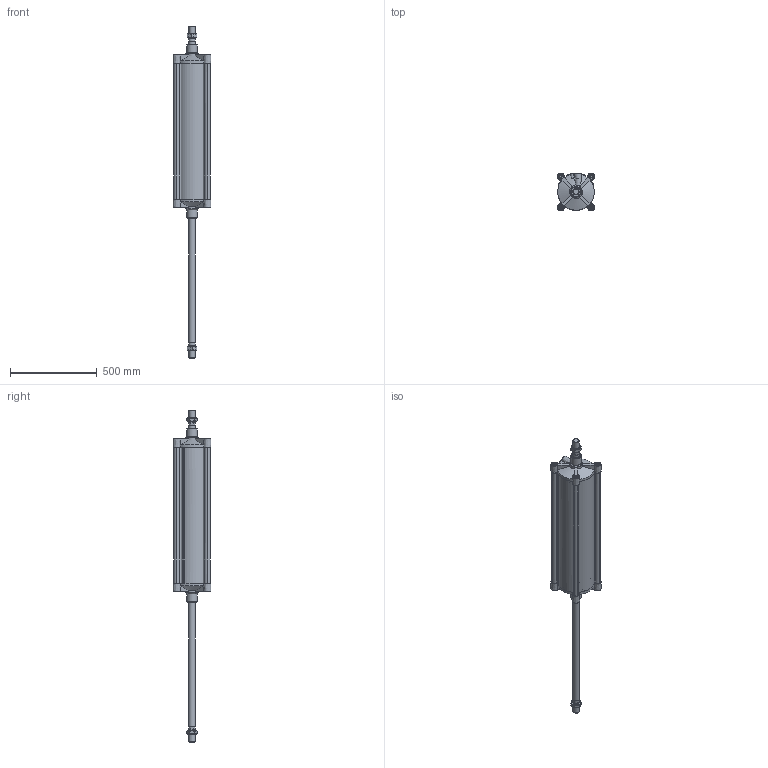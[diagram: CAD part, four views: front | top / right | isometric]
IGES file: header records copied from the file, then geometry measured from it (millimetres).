
Global section: file name: 139#_200_0700_02; native system: Autodesk Inventor 2014; preprocessor: unknown; author: F. Piloni; organization: Pneumax S.p.A.; date: 20151120.143305; units: millimetre
Bounding box: 216 x 216 x 1914 mm (x, y, z)
Volume: 12013852.2 mm3; surface area: 2232244.6 mm2
Topology: 6 solids, 6 shells, 324 faces, 844 edges, 567 vertices
Faces by surface type: bspline 324
